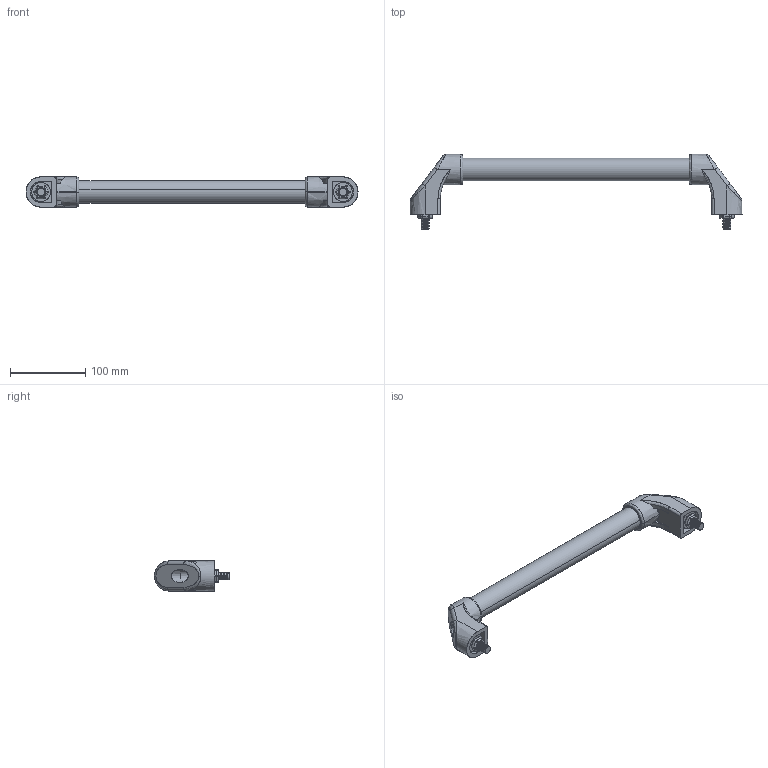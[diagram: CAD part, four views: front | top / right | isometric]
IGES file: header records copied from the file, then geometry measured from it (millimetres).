
Start section: SolidWorks IGES file using analytic representation for surfaces
Global section: file name: C:\Documents and Settings\Deathkiller\桌面\3D IGES\U型把手\MS-737-1-A\p=400.IGS; native system: SolidWorks 2006 by SolidWorks Corporation; preprocessor: SolidWorks 2006 by SolidWorks Corporation; author: Deathkiller; date: 080624.104809; units: millimetre
Bounding box: 440 x 99.5 x 40 mm (x, y, z)
Surface area: 108580.6 mm2 (no closed solid volume)
Topology: 0 solids, 0 shells, 318 faces, 6130 edges, 6114 vertices
Faces by surface type: revolution 210, bspline 108
